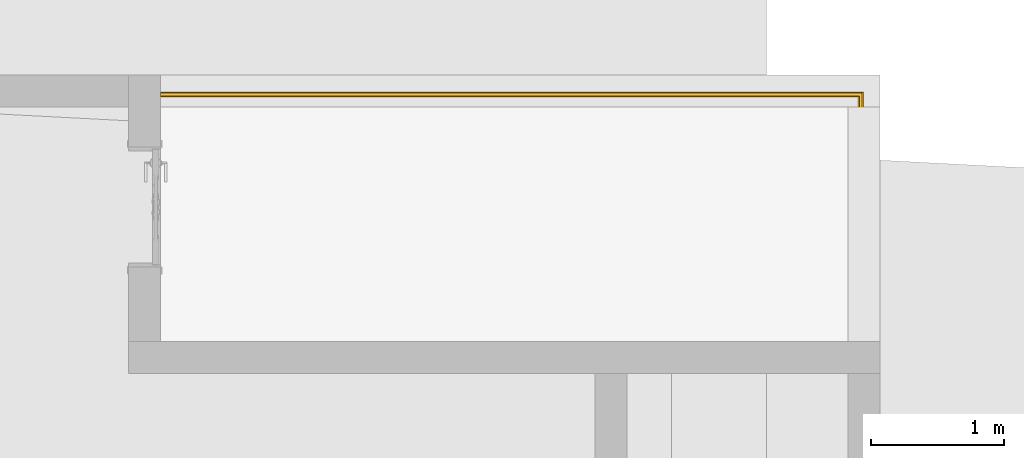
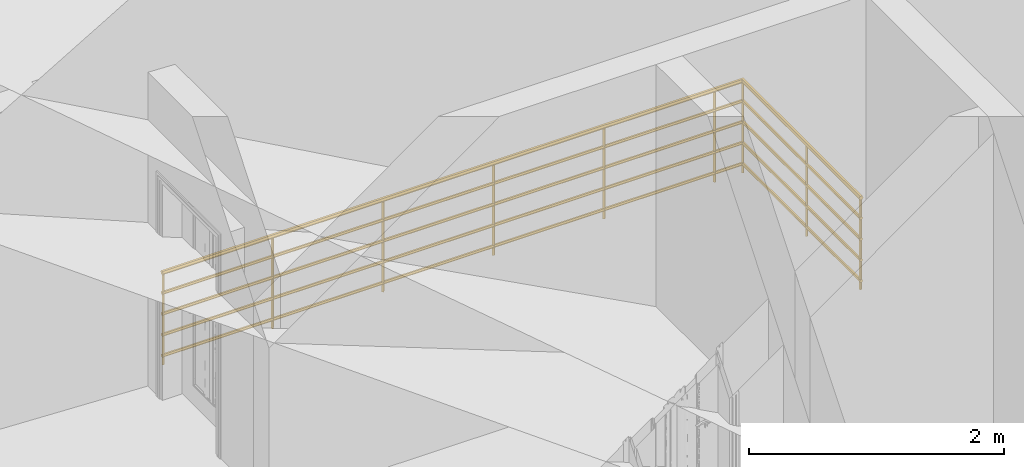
# One storey, part 74 of 82: 1 railing.
"""IFC2X3 building model written with IfcOpenShell, lengths in millimetres."""

from ifc_helpers import new_model, entity, si_unit, converted_unit, derived_unit, direction, frame, origin, place, context, subcontext, project, spatial, faceted_brep, material, element, save


model = new_model("IFC2X3")

# Units and contexts
model_context = context("Model", 3, precision=0.01, world=origin(), true_north=direction((6.12303176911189e-17, 1.0)))
body_context = subcontext(model_context, "Body", "Model", "MODEL_VIEW")
ifc_project = project(units=[si_unit("LENGTHUNIT", "METRE", prefix="MILLI"), si_unit("AREAUNIT", "SQUARE_METRE"), si_unit("VOLUMEUNIT", "CUBIC_METRE"), converted_unit("PLANEANGLEUNIT", "DEGREE", entity("IfcRatioMeasure", 0.0174532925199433), si_unit("PLANEANGLEUNIT", "RADIAN"), dimensions=[0, 0, 0, 0, 0, 0, 0]), si_unit("MASSUNIT", "GRAM", prefix="KILO"), derived_unit("MASSDENSITYUNIT", [(si_unit("MASSUNIT", "GRAM", prefix="KILO"), 1), (si_unit("LENGTHUNIT", "METRE"), -3)]), si_unit("TIMEUNIT", "SECOND"), si_unit("FREQUENCYUNIT", "HERTZ"), si_unit("THERMODYNAMICTEMPERATUREUNIT", "DEGREE_CELSIUS"), derived_unit("THERMALTRANSMITTANCEUNIT", [(si_unit("MASSUNIT", "GRAM", prefix="KILO"), 1), (si_unit("THERMODYNAMICTEMPERATUREUNIT", "KELVIN"), -1), (si_unit("TIMEUNIT", "SECOND"), -3)]), derived_unit("VOLUMETRICFLOWRATEUNIT", [(si_unit("LENGTHUNIT", "METRE"), 3), (si_unit("TIMEUNIT", "SECOND"), -1)]), si_unit("ELECTRICCURRENTUNIT", "AMPERE"), si_unit("ELECTRICVOLTAGEUNIT", "VOLT"), si_unit("POWERUNIT", "WATT"), si_unit("FORCEUNIT", "NEWTON", prefix="KILO"), si_unit("ILLUMINANCEUNIT", "LUX"), si_unit("LUMINOUSFLUXUNIT", "LUMEN"), si_unit("LUMINOUSINTENSITYUNIT", "CANDELA"), derived_unit("USERDEFINED", [(si_unit("MASSUNIT", "GRAM", prefix="KILO"), -1), (si_unit("LENGTHUNIT", "METRE"), -2), (si_unit("TIMEUNIT", "SECOND"), 3), (si_unit("LUMINOUSFLUXUNIT", "LUMEN"), 1)]), derived_unit("LINEARVELOCITYUNIT", [(si_unit("LENGTHUNIT", "METRE"), 1), (si_unit("TIMEUNIT", "SECOND"), -1)]), si_unit("PRESSUREUNIT", "PASCAL"), derived_unit("USERDEFINED", [(si_unit("LENGTHUNIT", "METRE"), -2), (si_unit("MASSUNIT", "GRAM", prefix="KILO"), 1), (si_unit("TIMEUNIT", "SECOND"), -2)])], contexts=[model_context])

# Site, building, storey
site_placement = place(None, origin())
site = spatial("IfcSite", under=ifc_project, at=site_placement, Name="表面", CompositionType="ELEMENT")
building_placement = place(site_placement, origin())
building = spatial("IfcBuilding", under=site, at=building_placement, CompositionType="ELEMENT")
storey_placement = place(building_placement, origin())
storey = spatial("IfcBuildingStorey", under=building, at=storey_placement, Name="1F", CompositionType="ELEMENT", Elevation=0.0)

# Railing
ifc_material = material(Name="不锈钢")
railing_placement = place(storey_placement, frame((-11911.8374126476, 3801.544073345, 0.0)))
element("IfcRailing", 1, at=railing_placement, inside=storey, material=ifc_material, Name="栏杆扶手:900mm 圆管", ObjectType="栏杆扶手:900mm 圆管", PredefinedType="NOTDEFINED", context=body_context, shape_type="Brep", body=[
    faceted_brep([(5244.0875, 856.587500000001, 0.0), (5256.58750000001, 844.087500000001, 0.0), (5256.58750000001, 844.087500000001, 860.0), (5244.0875, 856.587500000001, 860.0), (5269.08750000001, 856.587500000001, 0.0), (5269.08750000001, 856.587500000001, 860.0), (5256.58750000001, 869.087500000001, 860.0), (5256.58750000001, 869.087500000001, 0.0)], [[[0, 1, 2, 3]], [[2, 1, 4, 5]], [[6, 5, 4, 7]], [[6, 7, 0, 3]], [[3, 2, 5, 6]], [[0, 7, 4, 1]]]),
    faceted_brep([(5001.5875, 1844.0875, 0.0), (5014.0875, 1856.5875, 0.0), (5014.0875, 1856.5875, 860.0), (5001.5875, 1844.0875, 860.0), (5001.5875, 1869.0875, 0.0), (5001.5875, 1869.0875, 860.0), (4989.0875, 1856.5875, 860.0), (4989.0875, 1856.5875, 0.0)], [[[0, 1, 2, 3]], [[2, 1, 4, 5]], [[6, 5, 4, 7]], [[6, 7, 0, 3]], [[3, 2, 5, 6]], [[0, 7, 4, 1]]]),
    faceted_brep([(4001.5875, 1844.0875, 0.0), (4014.0875, 1856.58750000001, 0.0), (4014.0875, 1856.58750000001, 860.0), (4001.5875, 1844.0875, 860.0), (4001.5875, 1869.08750000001, 0.0), (4001.5875, 1869.08750000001, 860.0), (3989.0875, 1856.58750000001, 860.0), (3989.0875, 1856.58750000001, 0.0)], [[[0, 1, 2, 3]], [[2, 1, 4, 5]], [[6, 5, 4, 7]], [[6, 7, 0, 3]], [[3, 2, 5, 6]], [[0, 7, 4, 1]]]),
    faceted_brep([(3001.5875, 1844.08750000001, 0.0), (3014.0875, 1856.58750000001, 0.0), (3014.0875, 1856.58750000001, 860.0), (3001.5875, 1844.08750000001, 860.0), (3001.5875, 1869.08750000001, 0.0), (3001.5875, 1869.08750000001, 860.0), (2989.0875, 1856.58750000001, 860.0), (2989.0875, 1856.58750000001, 0.0)], [[[0, 1, 2, 3]], [[2, 1, 4, 5]], [[6, 5, 4, 7]], [[6, 7, 0, 3]], [[3, 2, 5, 6]], [[0, 7, 4, 1]]]),
    faceted_brep([(2001.5875, 1844.08750000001, 0.0), (2014.0875, 1856.58750000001, 0.0), (2014.0875, 1856.58750000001, 860.0), (2001.5875, 1844.08750000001, 860.0), (2001.5875, 1869.08750000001, 0.0), (2001.5875, 1869.08750000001, 860.0), (1989.0875, 1856.58750000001, 860.0), (1989.0875, 1856.58750000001, 0.0)], [[[0, 1, 2, 3]], [[2, 1, 4, 5]], [[6, 5, 4, 7]], [[6, 7, 0, 3]], [[3, 2, 5, 6]], [[0, 7, 4, 1]]]),
    faceted_brep([(1001.5875, 1844.08750000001, 0.0), (1014.0875, 1856.58750000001, 0.0), (1014.0875, 1856.58750000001, 860.0), (1001.5875, 1844.08750000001, 860.0), (1001.5875, 1869.08750000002, 0.0), (1001.5875, 1869.08750000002, 860.0), (989.087500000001, 1856.58750000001, 860.0), (989.087500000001, 1856.58750000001, 0.0)], [[[0, 1, 2, 3]], [[2, 1, 4, 5]], [[6, 5, 4, 7]], [[6, 7, 0, 3]], [[3, 2, 5, 6]], [[0, 7, 4, 1]]]),
    faceted_brep([(5256.58750000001, 1844.0875, 0.0), (5269.08750000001, 1856.5875, 0.0), (5269.08750000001, 1856.5875, 860.0), (5256.58750000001, 1844.0875, 860.0), (5256.58750000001, 1869.0875, 0.0), (5256.58750000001, 1869.0875, 860.0), (5244.08750000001, 1856.5875, 860.0), (5244.08750000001, 1856.5875, 0.0)], [[[0, 1, 2, 3]], [[2, 1, 4, 5]], [[6, 5, 4, 7]], [[6, 7, 0, 3]], [[3, 2, 5, 6]], [[0, 7, 4, 1]]]),
    faceted_brep([(5244.0875, 14.0875, 0.0), (5256.5875, 1.58750000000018, 0.0), (5256.5875, 1.58750000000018, 860.0), (5244.0875, 14.0875, 860.0), (5269.0875, 14.0875, 0.0), (5269.0875, 14.0875, 860.0), (5256.5875, 26.5874999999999, 860.0), (5256.5875, 26.5874999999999, 0.0)], [[[0, 1, 2, 3]], [[2, 1, 4, 5]], [[6, 5, 4, 7]], [[6, 7, 0, 3]], [[3, 2, 5, 6]], [[0, 7, 4, 1]]]),
    faceted_brep([(14.0875, 1844.08750000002, 0.0), (26.5874999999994, 1856.58750000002, 0.0), (26.5874999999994, 1856.58750000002, 860.0), (14.0875, 1844.08750000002, 860.0), (14.0875, 1869.08750000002, 0.0), (14.0875, 1869.08750000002, 860.0), (1.58750000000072, 1856.58750000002, 860.0), (1.58750000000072, 1856.58750000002, 0.0)], [[[0, 1, 2, 3]], [[2, 1, 4, 5]], [[6, 5, 4, 7]], [[6, 7, 0, 3]], [[3, 2, 5, 6]], [[0, 7, 4, 1]]]),
    faceted_brep([(1.58750000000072, 1876.58750000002, 880.0), (1.58750000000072, 1874.08750000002, 875.669872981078), (1.58750000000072, 1871.58750000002, 871.339745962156), (1.58750000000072, 1869.08750000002, 867.009618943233), (1.58750000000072, 1866.58750000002, 862.679491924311), (1.58750000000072, 1861.58750000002, 862.679491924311), (1.58750000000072, 1856.58750000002, 862.679491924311), (1.58750000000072, 1851.58750000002, 862.679491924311), (1.58750000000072, 1846.58750000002, 862.679491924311), (1.58750000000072, 1844.08750000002, 867.009618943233), (1.58750000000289, 1841.58750000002, 871.339745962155), (1.58750000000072, 1839.74511178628, 874.530855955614), (1.58750000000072, 1836.58750000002, 880.0), (1.58750000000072, 1839.74511178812, 885.469144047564), (1.58750000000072, 1842.90272357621, 890.938288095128), (1.58750000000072, 1844.74511178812, 894.129398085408), (1.58750000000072, 1846.58750000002, 897.320508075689), (1.58750000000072, 1851.58750000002, 897.320508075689), (1.58750000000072, 1856.58750000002, 897.320508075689), (1.58749999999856, 1861.58750000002, 897.320508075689), (1.58750000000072, 1866.58750000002, 897.320508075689), (1.58750000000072, 1869.08750000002, 892.990381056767), (1.58750000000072, 1871.58750000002, 888.660254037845), (1.58750000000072, 1874.08750000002, 884.330127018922), (5276.58750000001, 1876.5875, 880.0), (5274.36664988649, 1874.36664988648, 876.153374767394), (5273.42988884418, 1873.42988884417, 874.530857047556), (5272.14579977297, 1872.14579977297, 872.306749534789), (5271.58750000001, 1871.5875, 871.339745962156), (5269.36664988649, 1869.36664988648, 867.49312072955), (5269.08750000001, 1869.0875, 867.009618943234), (5266.58750000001, 1866.5875, 862.679491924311), (5246.58750000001, 1846.5875, 862.679491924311), (5244.08750000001, 1844.0875, 867.009618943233), (5241.58750000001, 1841.5875, 871.339745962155), (5239.08750000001, 1839.0875, 875.669872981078), (5236.58750000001, 1836.5875, 880.0), (5251.58750000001, 1851.5875, 862.679491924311), (5256.58750000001, 1856.5875, 862.679491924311), (5261.58750000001, 1861.5875, 862.679491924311), (5266.5875, 1.58750000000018, 862.679491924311), (5261.58750000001, 1.58750000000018, 862.679491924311), (5256.5875, 1.58750000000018, 862.679491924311), (5251.5875, 1.58750000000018, 862.679491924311), (5246.5875, 1.58750000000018, 862.679491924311), (5261.58750000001, 1861.5875, 897.320508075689), (5266.58750000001, 1866.5875, 897.320508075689), (5256.58750000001, 1856.5875, 897.320508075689), (5266.5875, 1.58750000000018, 897.320508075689), (5261.5875, 1.58750000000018, 897.320508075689), (5256.5875, 1.58750000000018, 897.320508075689), (5251.58750000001, 1851.5875, 897.320508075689), (5246.58750000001, 1846.5875, 897.320508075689), (5251.5875, 1.58750000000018, 897.320508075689), (5246.5875, 1.58750000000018, 897.320508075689), (5239.08750000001, 1839.0875, 884.330127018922), (5241.58750000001, 1841.5875, 888.660254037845), (5244.08750000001, 1844.0875, 892.990381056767), (5268.42988884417, 1868.42988884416, 894.129396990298), (5269.08750000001, 1869.0875, 892.990381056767), (5270.27227768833, 1870.27227768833, 890.938285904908), (5271.58750000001, 1871.5875, 888.660254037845), (5273.42988884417, 1873.42988884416, 885.469142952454), (5274.36664988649, 1874.36664988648, 883.846625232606), (5243.8083536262, 1.58750000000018, 892.506885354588), (5241.02920725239, 1.58750000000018, 887.693262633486), (5238.8083536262, 1.58750000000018, 883.846631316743), (5236.5875, 1.58750000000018, 880.0), (5238.80835362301, 1.58750000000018, 876.153368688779), (5241.5875, 1.58750000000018, 871.339745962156), (5244.0875, 1.58750000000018, 867.009618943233), (5269.0875, 1.58750000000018, 867.009618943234), (5271.5875, 1.58750000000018, 871.339745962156), (5274.0875, 1.58750000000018, 875.669872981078), (5276.5875, 1.58750000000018, 880.0), (5274.0875, 1.58750000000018, 884.330127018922), (5271.5875, 1.58750000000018, 888.660254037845), (5269.0875, 1.58750000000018, 892.990381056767)], [[[0, 1, 2, 3, 4, 5, 6, 7, 8, 9, 10, 11, 12, 13, 14, 15, 16, 17, 18, 19, 20, 21, 22, 23]], [[24, 25, 26, 27, 28, 29, 30, 31, 4, 3, 2, 1, 0]], [[10, 9, 8, 32, 33, 34, 35, 36, 12, 11]], [[6, 37, 7]], [[38, 37, 6]], [[6, 5, 38]], [[38, 5, 39]], [[4, 39, 5]], [[4, 31, 39]], [[40, 39, 31]], [[39, 40, 41]], [[41, 38, 39]], [[41, 42, 38]], [[38, 42, 37]], [[42, 43, 37]], [[43, 32, 37]], [[44, 32, 43]], [[32, 8, 7]], [[32, 7, 37]], [[45, 20, 19]], [[46, 20, 45]], [[47, 45, 19]], [[45, 48, 46]], [[48, 45, 49]], [[45, 47, 49]], [[50, 49, 47]], [[18, 47, 19]], [[18, 51, 47]], [[51, 18, 17]], [[17, 52, 51]], [[17, 16, 52]], [[51, 52, 53]], [[52, 54, 53]], [[50, 51, 53]], [[51, 50, 47]], [[12, 36, 55, 56, 57, 52, 16, 15, 14, 13]], [[23, 22, 21, 20, 46, 58, 59, 60, 61, 62, 63, 24, 0]], [[64, 65, 66, 67, 68, 69, 70, 44, 43, 42, 41, 40, 71, 72, 73, 74, 75, 76, 77, 48, 49, 50, 53, 54]], [[72, 71, 40, 31, 30, 29, 28, 27, 26, 25, 24, 74, 73]], [[70, 69, 68, 67, 36, 35, 34, 33, 32, 44]], [[56, 55, 36, 67, 66, 65, 64, 54, 52, 57]], [[77, 76, 75, 74, 24, 63, 62, 61, 60, 59, 58, 46, 48]]]),
    faceted_brep([(1.58750000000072, 1871.58750000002, 685.0), (1.58750000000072, 1869.52128994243, 681.421219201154), (1.58750000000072, 1867.83750000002, 678.504809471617), (1.58750000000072, 1865.96250000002, 675.257214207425), (1.58750000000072, 1864.08750000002, 672.009618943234), (1.58750000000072, 1860.33750000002, 672.009618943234), (1.58750000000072, 1856.58750000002, 672.009618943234), (1.58750000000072, 1852.83750000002, 672.009618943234), (1.58750000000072, 1849.08750000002, 672.009618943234), (1.58750000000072, 1847.21250000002, 675.257214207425), (1.58750000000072, 1845.33750000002, 678.504809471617), (1.58750000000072, 1843.6537100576, 681.421219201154), (1.58750000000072, 1841.58750000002, 685.0), (1.58750000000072, 1843.65371005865, 688.578780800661), (1.58750000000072, 1845.71992011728, 692.157561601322), (1.58750000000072, 1847.40371005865, 695.073971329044), (1.58750000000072, 1849.08750000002, 697.990381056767), (1.58750000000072, 1852.83750000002, 697.990381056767), (1.58750000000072, 1856.58750000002, 697.990381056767), (1.58749999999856, 1860.33750000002, 697.990381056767), (1.58750000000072, 1864.08750000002, 697.990381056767), (1.58750000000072, 1865.96250000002, 694.742785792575), (1.58750000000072, 1867.83750000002, 691.495190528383), (1.58750000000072, 1869.71250000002, 688.247595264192), (5271.58750000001, 1871.5875, 685.0), (5270.1411576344, 1870.14115763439, 682.494861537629), (5269.52129017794, 1869.52129017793, 681.421219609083), (5268.69481526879, 1868.69481526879, 679.989723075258), (5267.45508035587, 1867.45508035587, 677.842439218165), (5266.3911576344, 1866.39115763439, 675.999671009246), (5265.77129017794, 1865.77129017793, 674.9260290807), (5264.08750000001, 1864.0875, 672.009618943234), (5249.08750000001, 1849.0875, 672.009618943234), (5247.21250000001, 1847.2125, 675.257214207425), (5245.33750000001, 1845.3375, 678.504809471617), (5243.46250000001, 1843.4625, 681.752404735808), (5241.58750000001, 1841.5875, 685.0), (5252.83750000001, 1852.8375, 672.009618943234), (5252.8375, 1.58750000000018, 672.009618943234), (5249.0875, 1.58750000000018, 672.009618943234), (5256.58750000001, 1856.5875, 672.009618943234), (5260.33750000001, 1860.3375, 672.009618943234), (5264.0875, 1.58750000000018, 672.009618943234), (5260.3375, 1.58750000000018, 672.009618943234), (5256.5875, 1.58750000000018, 672.009618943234), (5260.33750000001, 1860.3375, 697.990381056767), (5264.08750000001, 1864.0875, 697.990381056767), (5256.58750000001, 1856.5875, 697.990381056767), (5264.0875, 1.58750000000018, 697.990381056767), (5260.33750000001, 1.58750000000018, 697.990381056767), (5256.5875, 1.58750000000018, 697.990381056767), (5252.83750000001, 1852.8375, 697.990381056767), (5249.08750000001, 1849.0875, 697.990381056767), (5252.8375, 1.58750000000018, 697.990381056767), (5249.0875, 1.58750000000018, 697.990381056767), (5245.33750000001, 1845.3375, 691.495190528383), (5247.21250000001, 1847.2125, 694.742785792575), (5243.46250000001, 1843.4625, 688.247595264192), (5243.65370982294, 1843.65370982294, 688.578780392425), (5265.96250000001, 1865.9625, 694.742785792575), (5267.83750000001, 1867.8375, 691.495190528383), (5269.52129017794, 1869.52129017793, 688.578780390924), (5270.1411576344, 1870.14115763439, 687.505138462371), (5241.5875, 1.58750000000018, 685.0), (5243.03384365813, 1.58750000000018, 682.494859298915), (5245.3375, 1.58750000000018, 678.504809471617), (5247.2125, 1.58750000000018, 675.257214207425), (5265.9625, 1.58750000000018, 675.257214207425), (5267.8375, 1.58750000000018, 678.504809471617), (5269.7125, 1.58750000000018, 681.752404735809), (5271.5875, 1.58750000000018, 685.0), (5269.7125, 1.58750000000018, 688.247595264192), (5267.8375, 1.58750000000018, 691.495190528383), (5265.9625, 1.58750000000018, 694.742785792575), (5246.78384365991, 1.58750000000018, 694.000331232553), (5244.48018731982, 1.58750000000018, 690.010281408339), (5243.03384365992, 1.58750000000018, 687.50514070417)], [[[0, 1, 2, 3, 4, 5, 6, 7, 8, 9, 10, 11, 12, 13, 14, 15, 16, 17, 18, 19, 20, 21, 22, 23]], [[4, 3, 2, 1, 0, 24, 25, 26, 27, 28, 29, 30, 31]], [[10, 9, 8, 32, 33, 34, 35, 36, 12, 11]], [[32, 7, 37]], [[32, 8, 7]], [[38, 32, 37]], [[39, 32, 38]], [[6, 37, 7]], [[40, 37, 6]], [[6, 5, 40]], [[40, 5, 41]], [[4, 41, 5]], [[4, 31, 41]], [[42, 41, 31]], [[41, 42, 43]], [[43, 40, 41]], [[43, 44, 40]], [[40, 44, 37]], [[44, 38, 37]], [[45, 20, 19]], [[46, 20, 45]], [[47, 45, 19]], [[45, 48, 46]], [[48, 45, 49]], [[45, 47, 49]], [[50, 49, 47]], [[18, 47, 19]], [[18, 51, 47]], [[51, 18, 17]], [[17, 52, 51]], [[17, 16, 52]], [[51, 52, 53]], [[52, 54, 53]], [[50, 51, 53]], [[51, 50, 47]], [[55, 56, 52, 16, 15, 14, 13, 12, 36, 57, 58]], [[22, 21, 20, 46, 59, 60, 61, 62, 24, 0, 23]], [[63, 64, 65, 66, 39, 38, 44, 43, 42, 67, 68, 69, 70, 71, 72, 73, 48, 49, 50, 53, 54, 74, 75, 76]], [[31, 30, 29, 28, 27, 26, 25, 24, 70, 69, 68, 67, 42]], [[34, 33, 32, 39, 66, 65, 64, 63, 36, 35]], [[54, 52, 56, 55, 58, 57, 36, 63, 76, 75, 74]], [[73, 72, 71, 70, 24, 62, 61, 60, 59, 46, 48]]]),
    faceted_brep([(1.58750000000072, 1871.58750000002, 485.0), (1.58750000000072, 1869.52128994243, 481.421219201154), (1.58750000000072, 1867.83750000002, 478.504809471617), (1.58750000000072, 1865.96250000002, 475.257214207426), (1.58750000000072, 1864.08750000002, 472.009618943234), (1.58750000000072, 1860.33750000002, 472.009618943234), (1.58750000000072, 1856.58750000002, 472.009618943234), (1.58750000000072, 1852.83750000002, 472.009618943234), (1.58750000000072, 1849.08750000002, 472.009618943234), (1.58750000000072, 1847.21250000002, 475.257214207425), (1.58750000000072, 1845.33750000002, 478.504809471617), (1.58750000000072, 1843.6537100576, 481.421219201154), (1.58750000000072, 1841.58750000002, 485.0), (1.58750000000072, 1843.65371005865, 488.578780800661), (1.58750000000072, 1845.71992011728, 492.157561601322), (1.58750000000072, 1847.40371005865, 495.073971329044), (1.58750000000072, 1849.08750000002, 497.990381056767), (1.58750000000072, 1852.83750000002, 497.990381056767), (1.58750000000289, 1856.58750000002, 497.990381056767), (1.58750000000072, 1860.33750000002, 497.990381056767), (1.58750000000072, 1864.08750000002, 497.990381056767), (1.58750000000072, 1865.96250000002, 494.742785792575), (1.58750000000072, 1867.83750000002, 491.495190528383), (1.58750000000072, 1869.71250000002, 488.247595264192), (5271.58750000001, 1871.5875, 485.0), (5270.1411576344, 1870.14115763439, 482.494861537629), (5269.52129017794, 1869.52129017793, 481.421219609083), (5268.69481526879, 1868.69481526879, 479.989723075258), (5267.45508035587, 1867.45508035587, 477.842439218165), (5266.3911576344, 1866.39115763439, 475.999671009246), (5265.77129017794, 1865.77129017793, 474.9260290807), (5264.08750000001, 1864.0875, 472.009618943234), (5249.08750000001, 1849.0875, 472.009618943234), (5247.21250000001, 1847.2125, 475.257214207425), (5245.33750000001, 1845.3375, 478.504809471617), (5243.46250000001, 1843.4625, 481.752404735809), (5241.58750000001, 1841.5875, 485.0), (5252.83750000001, 1852.8375, 472.009618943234), (5252.8375, 1.58750000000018, 472.009618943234), (5249.0875, 1.58750000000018, 472.009618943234), (5256.58750000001, 1856.5875, 472.009618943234), (5260.33750000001, 1860.3375, 472.009618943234), (5264.0875, 1.58750000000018, 472.009618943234), (5260.33750000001, 1.58750000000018, 472.009618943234), (5256.5875, 1.58750000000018, 472.009618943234), (5260.33750000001, 1860.3375, 497.990381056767), (5264.08750000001, 1864.0875, 497.990381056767), (5256.58750000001, 1856.5875, 497.990381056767), (5264.0875, 1.58750000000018, 497.990381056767), (5260.3375, 1.58750000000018, 497.990381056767), (5256.5875, 1.58750000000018, 497.990381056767), (5252.83750000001, 1852.8375, 497.990381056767), (5249.08750000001, 1849.0875, 497.990381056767), (5252.8375, 1.58750000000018, 497.990381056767), (5249.0875, 1.58750000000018, 497.990381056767), (5245.33750000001, 1845.3375, 491.495190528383), (5247.21250000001, 1847.2125, 494.742785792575), (5243.46250000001, 1843.4625, 488.247595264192), (5243.65370982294, 1843.65370982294, 488.578780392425), (5265.96250000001, 1865.9625, 494.742785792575), (5267.83750000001, 1867.8375, 491.495190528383), (5269.52129017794, 1869.52129017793, 488.578780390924), (5270.1411576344, 1870.14115763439, 487.505138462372), (5246.78384365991, 1.58750000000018, 494.000331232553), (5244.48018731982, 1.58750000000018, 490.010281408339), (5243.03384365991, 1.58750000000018, 487.50514070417), (5241.5875, 1.58750000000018, 485.0), (5243.03384365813, 1.58750000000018, 482.494859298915), (5245.3375, 1.58750000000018, 478.504809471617), (5247.2125, 1.58750000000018, 475.257214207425), (5265.96250000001, 1.58750000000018, 475.257214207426), (5267.8375, 1.58750000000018, 478.504809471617), (5269.7125, 1.58750000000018, 481.752404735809), (5271.5875, 1.58750000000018, 485.0), (5269.7125, 1.58750000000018, 488.247595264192), (5267.8375, 1.58750000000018, 491.495190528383), (5265.9625, 1.58750000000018, 494.742785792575)], [[[0, 1, 2, 3, 4, 5, 6, 7, 8, 9, 10, 11, 12, 13, 14, 15, 16, 17, 18, 19, 20, 21, 22, 23]], [[4, 3, 2, 1, 0, 24, 25, 26, 27, 28, 29, 30, 31]], [[10, 9, 8, 32, 33, 34, 35, 36, 12, 11]], [[32, 7, 37]], [[32, 8, 7]], [[38, 32, 37]], [[39, 32, 38]], [[6, 37, 7]], [[40, 37, 6]], [[6, 5, 40]], [[40, 5, 41]], [[4, 41, 5]], [[4, 31, 41]], [[42, 41, 31]], [[41, 42, 43]], [[43, 40, 41]], [[43, 44, 40]], [[40, 44, 37]], [[44, 38, 37]], [[45, 20, 19]], [[46, 20, 45]], [[47, 45, 19]], [[45, 48, 46]], [[48, 45, 49]], [[45, 47, 49]], [[50, 49, 47]], [[18, 47, 19]], [[18, 51, 47]], [[51, 18, 17]], [[17, 52, 51]], [[17, 16, 52]], [[51, 52, 53]], [[52, 54, 53]], [[50, 51, 53]], [[51, 50, 47]], [[55, 56, 52, 16, 15, 14, 13, 12, 36, 57, 58]], [[22, 21, 20, 46, 59, 60, 61, 62, 24, 0, 23]], [[49, 50, 53, 54, 63, 64, 65, 66, 67, 68, 69, 39, 38, 44, 43, 42, 70, 71, 72, 73, 74, 75, 76, 48]], [[31, 30, 29, 28, 27, 26, 25, 24, 73, 72, 71, 70, 42]], [[34, 33, 32, 39, 69, 68, 67, 66, 36, 35]], [[54, 52, 56, 55, 58, 57, 36, 66, 65, 64, 63]], [[76, 75, 74, 73, 24, 62, 61, 60, 59, 46, 48]]]),
    faceted_brep([(1.58750000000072, 1871.58750000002, 285.0), (1.58750000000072, 1869.52128994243, 281.421219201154), (1.58750000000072, 1867.83750000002, 278.504809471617), (1.58750000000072, 1865.96250000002, 275.257214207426), (1.58750000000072, 1864.08750000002, 272.009618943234), (1.58750000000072, 1860.33750000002, 272.009618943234), (1.58750000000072, 1856.58750000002, 272.009618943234), (1.58750000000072, 1852.83750000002, 272.009618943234), (1.58750000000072, 1849.08750000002, 272.009618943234), (1.58750000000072, 1847.21250000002, 275.257214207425), (1.58750000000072, 1845.33750000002, 278.504809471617), (1.58750000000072, 1843.6537100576, 281.421219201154), (1.58750000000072, 1841.58750000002, 285.0), (1.58750000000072, 1843.65371005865, 288.578780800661), (1.58750000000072, 1845.71992011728, 292.157561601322), (1.58750000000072, 1847.40371005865, 295.073971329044), (1.58750000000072, 1849.08750000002, 297.990381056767), (1.58750000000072, 1852.83750000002, 297.990381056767), (1.58750000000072, 1856.58750000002, 297.990381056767), (1.58749999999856, 1860.33750000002, 297.990381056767), (1.58750000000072, 1864.08750000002, 297.990381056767), (1.58750000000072, 1865.96250000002, 294.742785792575), (1.58750000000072, 1867.83750000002, 291.495190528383), (1.58750000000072, 1869.71250000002, 288.247595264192), (5271.58750000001, 1871.5875, 285.0), (5270.1411576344, 1870.14115763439, 282.494861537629), (5269.52129017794, 1869.52129017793, 281.421219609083), (5268.69481526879, 1868.69481526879, 279.989723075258), (5267.45508035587, 1867.45508035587, 277.842439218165), (5266.3911576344, 1866.39115763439, 275.999671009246), (5265.77129017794, 1865.77129017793, 274.9260290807), (5264.08750000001, 1864.0875, 272.009618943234), (5249.08750000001, 1849.0875, 272.009618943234), (5247.21250000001, 1847.2125, 275.257214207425), (5245.33750000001, 1845.3375, 278.504809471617), (5243.46250000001, 1843.4625, 281.752404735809), (5241.58750000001, 1841.5875, 285.0), (5252.83750000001, 1852.8375, 272.009618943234), (5252.8375, 1.58750000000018, 272.009618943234), (5249.0875, 1.58750000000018, 272.009618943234), (5256.58750000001, 1856.5875, 272.009618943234), (5260.33750000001, 1860.3375, 272.009618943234), (5264.0875, 1.58750000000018, 272.009618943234), (5260.33750000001, 1.58750000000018, 272.009618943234), (5256.5875, 1.58750000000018, 272.009618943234), (5260.33750000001, 1860.3375, 297.990381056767), (5264.08750000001, 1864.0875, 297.990381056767), (5256.58750000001, 1856.5875, 297.990381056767), (5264.0875, 1.58750000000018, 297.990381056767), (5260.3375, 1.58750000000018, 297.990381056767), (5256.5875, 1.58750000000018, 297.990381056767), (5252.83750000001, 1852.8375, 297.990381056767), (5249.08750000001, 1849.0875, 297.990381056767), (5252.8375, 1.58750000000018, 297.990381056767), (5249.0875, 1.58750000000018, 297.990381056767), (5245.33750000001, 1845.3375, 291.495190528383), (5247.21250000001, 1847.2125, 294.742785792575), (5243.46250000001, 1843.4625, 288.247595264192), (5243.65370982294, 1843.65370982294, 288.578780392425), (5265.96250000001, 1865.9625, 294.742785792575), (5267.83750000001, 1867.8375, 291.495190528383), (5269.52129017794, 1869.52129017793, 288.578780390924), (5270.1411576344, 1870.14115763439, 287.505138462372), (5246.78384365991, 1.58750000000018, 294.000331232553), (5244.48018731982, 1.58750000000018, 290.010281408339), (5243.03384365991, 1.58750000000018, 287.50514070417), (5241.5875, 1.58750000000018, 285.0), (5243.03384365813, 1.58750000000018, 282.494859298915), (5245.3375, 1.58750000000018, 278.504809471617), (5247.2125, 1.58750000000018, 275.257214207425), (5265.9625, 1.58750000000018, 275.257214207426), (5267.8375, 1.58750000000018, 278.504809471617), (5269.7125, 1.58750000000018, 281.752404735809), (5271.5875, 1.58750000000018, 285.0), (5269.7125, 1.58750000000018, 288.247595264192), (5267.8375, 1.58750000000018, 291.495190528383), (5265.9625, 1.58750000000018, 294.742785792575)], [[[0, 1, 2, 3, 4, 5, 6, 7, 8, 9, 10, 11, 12, 13, 14, 15, 16, 17, 18, 19, 20, 21, 22, 23]], [[4, 3, 2, 1, 0, 24, 25, 26, 27, 28, 29, 30, 31]], [[10, 9, 8, 32, 33, 34, 35, 36, 12, 11]], [[32, 7, 37]], [[32, 8, 7]], [[38, 32, 37]], [[39, 32, 38]], [[6, 37, 7]], [[40, 37, 6]], [[6, 5, 40]], [[40, 5, 41]], [[4, 41, 5]], [[4, 31, 41]], [[42, 41, 31]], [[41, 42, 43]], [[43, 40, 41]], [[43, 44, 40]], [[40, 44, 37]], [[44, 38, 37]], [[45, 20, 19]], [[46, 20, 45]], [[47, 45, 19]], [[45, 48, 46]], [[48, 45, 49]], [[45, 47, 49]], [[50, 49, 47]], [[18, 47, 19]], [[18, 51, 47]], [[51, 18, 17]], [[17, 52, 51]], [[17, 16, 52]], [[51, 52, 53]], [[52, 54, 53]], [[50, 51, 53]], [[51, 50, 47]], [[55, 56, 52, 16, 15, 14, 13, 12, 36, 57, 58]], [[22, 21, 20, 46, 59, 60, 61, 62, 24, 0, 23]], [[49, 50, 53, 54, 63, 64, 65, 66, 67, 68, 69, 39, 38, 44, 43, 42, 70, 71, 72, 73, 74, 75, 76, 48]], [[31, 30, 29, 28, 27, 26, 25, 24, 73, 72, 71, 70, 42]], [[34, 33, 32, 39, 69, 68, 67, 66, 36, 35]], [[54, 52, 56, 55, 58, 57, 36, 66, 65, 64, 63]], [[76, 75, 74, 73, 24, 62, 61, 60, 59, 46, 48]]]),
    faceted_brep([(1.58750000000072, 1871.58750000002, 85.0), (1.58750000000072, 1869.52128994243, 81.4212192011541), (1.58750000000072, 1867.83750000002, 78.5048094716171), (1.58750000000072, 1865.96250000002, 75.2572142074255), (1.58750000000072, 1864.08750000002, 72.0096189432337), (1.58750000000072, 1860.33750000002, 72.0096189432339), (1.58750000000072, 1856.58750000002, 72.0096189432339), (1.58750000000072, 1852.83750000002, 72.0096189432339), (1.58750000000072, 1849.08750000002, 72.0096189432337), (1.58750000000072, 1847.21250000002, 75.2572142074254), (1.58750000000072, 1845.33750000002, 78.504809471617), (1.58750000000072, 1843.6537100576, 81.421219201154), (1.58750000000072, 1841.58750000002, 85.0), (1.58750000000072, 1843.65371005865, 88.5787808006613), (1.58750000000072, 1845.71992011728, 92.1575616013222), (1.58750000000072, 1847.40371005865, 95.0739713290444), (1.58750000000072, 1849.08750000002, 97.9903810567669), (1.58750000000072, 1852.83750000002, 97.9903810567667), (1.58750000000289, 1856.58750000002, 97.9903810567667), (1.58750000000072, 1860.33750000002, 97.9903810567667), (1.58750000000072, 1864.08750000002, 97.9903810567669), (1.58750000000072, 1865.96250000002, 94.7427857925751), (1.58750000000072, 1867.83750000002, 91.4951905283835), (1.58749999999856, 1869.71250000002, 88.2475952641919), (5271.58750000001, 1871.5875, 85.0), (5270.1411576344, 1870.14115763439, 82.4948615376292), (5269.52129017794, 1869.52129017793, 81.4212196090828), (5268.69481526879, 1868.69481526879, 79.989723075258), (5267.45508035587, 1867.45508035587, 77.8424392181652), (5266.3911576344, 1866.39115763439, 75.999671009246), (5265.77129017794, 1865.77129017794, 74.9260290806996), (5264.08750000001, 1864.0875, 72.009618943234), (5249.08750000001, 1849.0875, 72.0096189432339), (5247.21250000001, 1847.2125, 75.2572142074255), (5245.33750000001, 1845.3375, 78.504809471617), (5243.46250000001, 1843.4625, 81.7524047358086), (5241.58750000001, 1841.5875, 85.0), (5252.83750000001, 1852.8375, 72.0096189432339), (5252.8375, 1.58750000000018, 72.0096189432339), (5249.0875, 1.58750000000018, 72.0096189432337), (5256.58750000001, 1856.5875, 72.0096189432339), (5260.33750000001, 1860.3375, 72.009618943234), (5264.0875, 1.58750000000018, 72.0096189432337), (5260.33750000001, 1.58750000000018, 72.0096189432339), (5256.5875, 1.58750000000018, 72.0096189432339), (5260.33750000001, 1860.3375, 97.9903810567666), (5264.08750000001, 1864.0875, 97.9903810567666), (5256.58750000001, 1856.5875, 97.9903810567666), (5264.0875, 1.58750000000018, 97.9903810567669), (5260.33750000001, 1.58750000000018, 97.9903810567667), (5256.5875, 1.58750000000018, 97.9903810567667), (5252.83750000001, 1852.8375, 97.9903810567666), (5249.08750000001, 1849.0875, 97.9903810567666), (5252.8375, 1.58750000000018, 97.9903810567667), (5249.0875, 1.58750000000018, 97.9903810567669), (5245.33750000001, 1845.3375, 91.4951905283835), (5247.21250000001, 1847.2125, 94.742785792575), (5243.46250000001, 1843.4625, 88.2475952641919), (5243.65370982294, 1843.65370982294, 88.5787803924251), (5265.96250000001, 1865.9625, 94.742785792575), (5267.83750000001, 1867.8375, 91.4951905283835), (5269.52129017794, 1869.52129017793, 88.5787803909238), (5270.1411576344, 1870.14115763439, 87.5051384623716), (5246.78384365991, 1.58750000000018, 94.0003312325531), (5244.48018731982, 1.58750000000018, 90.0102814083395), (5243.03384365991, 1.58750000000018, 87.5051407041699), (5241.5875, 1.58750000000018, 85.0), (5243.03384365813, 1.58750000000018, 82.4948592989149), (5245.3375, 1.58750000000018, 78.504809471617), (5247.2125, 1.58750000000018, 75.2572142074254), (5265.9625, 1.58750000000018, 75.2572142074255), (5267.8375, 1.58750000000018, 78.5048094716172), (5269.7125, 1.58750000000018, 81.7524047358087), (5271.5875, 1.58750000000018, 85.0), (5269.7125, 1.58750000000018, 88.2475952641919), (5267.8375, 1.58750000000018, 91.4951905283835), (5265.96250000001, 1.58750000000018, 94.7427857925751)], [[[0, 1, 2, 3, 4, 5, 6, 7, 8, 9, 10, 11, 12, 13, 14, 15, 16, 17, 18, 19, 20, 21, 22, 23]], [[4, 3, 2, 1, 0, 24, 25, 26, 27, 28, 29, 30, 31]], [[10, 9, 8, 32, 33, 34, 35, 36, 12, 11]], [[32, 7, 37]], [[32, 8, 7]], [[38, 32, 37]], [[39, 32, 38]], [[6, 37, 7]], [[40, 37, 6]], [[6, 5, 40]], [[40, 5, 41]], [[4, 41, 5]], [[4, 31, 41]], [[42, 41, 31]], [[41, 42, 43]], [[43, 40, 41]], [[43, 44, 40]], [[40, 44, 37]], [[44, 38, 37]], [[45, 20, 19]], [[46, 20, 45]], [[47, 45, 19]], [[45, 48, 46]], [[48, 45, 49]], [[45, 47, 49]], [[50, 49, 47]], [[18, 47, 19]], [[18, 51, 47]], [[51, 18, 17]], [[17, 52, 51]], [[17, 16, 52]], [[51, 52, 53]], [[52, 54, 53]], [[50, 51, 53]], [[51, 50, 47]], [[55, 56, 52, 16, 15, 14, 13, 12, 36, 57, 58]], [[22, 21, 20, 46, 59, 60, 61, 62, 24, 0, 23]], [[49, 50, 53, 54, 63, 64, 65, 66, 67, 68, 69, 39, 38, 44, 43, 42, 70, 71, 72, 73, 74, 75, 76, 48]], [[31, 30, 29, 28, 27, 26, 25, 24, 73, 72, 71, 70, 42]], [[34, 33, 32, 39, 69, 68, 67, 66, 36, 35]], [[54, 52, 56, 55, 58, 57, 36, 66, 65, 64, 63]], [[76, 75, 74, 73, 24, 62, 61, 60, 59, 46, 48]]]),
])

save(model, "model.ifc")
